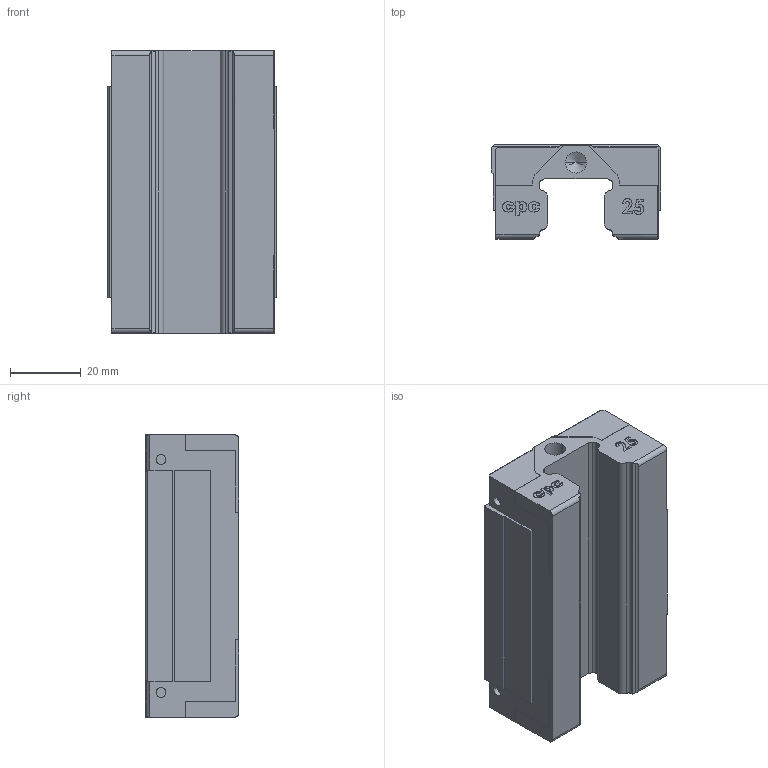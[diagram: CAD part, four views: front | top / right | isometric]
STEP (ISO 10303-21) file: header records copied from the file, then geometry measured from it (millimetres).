
FILE_DESCRIPTION (( 'STEP AP203' ), '1' );
FILE_NAME ('AR25MN.STEP', '2009-08-04T05:31:41', ( 'cpc' ), ( '' ), 'SwSTEP 2.0', 'SolidWorks 2007', '' );
FILE_SCHEMA (( 'CONFIG_CONTROL_DESIGN' ));
Length unit declared in the file: millimetre
Products named in the file (1): AR25MN
Bounding box: 48 x 26.6 x 80.2 mm (x, y, z)
Volume: 73316 mm3; surface area: 17656.2 mm2
Topology: 1 solids, 1 shells, 314 faces, 844 edges, 550 vertices
Faces by surface type: plane 148, bspline 86, cylinder 60, cone 20
Entity records: 14117 total; most frequent: CARTESIAN_POINT 6763, ORIENTED_EDGE 1664, DIRECTION 1218, EDGE_CURVE 832, VERTEX_POINT 550, VECTOR 528, LINE 528, AXIS2_PLACEMENT_3D 345
